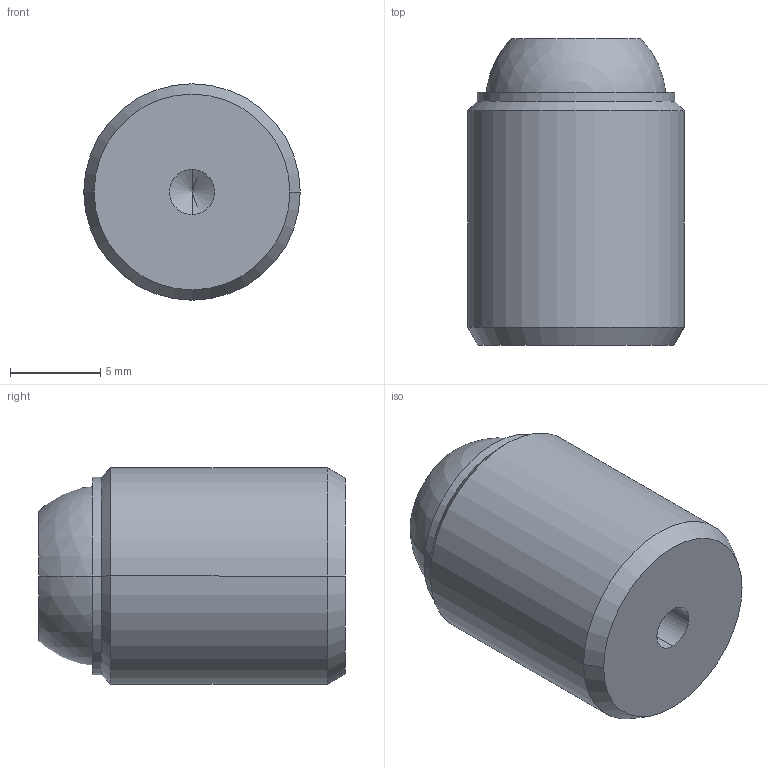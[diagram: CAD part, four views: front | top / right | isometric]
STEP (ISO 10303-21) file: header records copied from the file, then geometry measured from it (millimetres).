
FILE_DESCRIPTION (( 'STEP AP214' ), '1' );
FILE_NAME ('709.2-12-RR.step', '2023-01-26T12:37:45', ( '' ), ( '' ), 'SwSTEP 2.0', 'SolidWorks 2022', '' );
FILE_SCHEMA (( 'AUTOMOTIVE_DESIGN' ));
Length unit declared in the file: millimetre
Products named in the file (3): WB709.2_Kugel^WB709.2_10-R; WB709.2_Gehäuse^WB709.2_12-RH; 709.2-12-RR
Assembly tree (2 placements, depth 2):
  709.2-12-RR
    WB709.2_Gehäuse^WB709.2_12-RH
    WB709.2_Kugel^WB709.2_10-R
Bounding box: 12 x 17 x 12 mm (x, y, z)
Volume: 1708.5 mm3; surface area: 1157 mm2
Topology: 2 solids, 2 shells, 21 faces, 50 edges, 29 vertices
Faces by surface type: cylinder 6, cone 6, plane 5, sphere 4
Entity records: 654 total; most frequent: DIRECTION 116, CARTESIAN_POINT 87, ORIENTED_EDGE 76, AXIS2_PLACEMENT_3D 52, EDGE_CURVE 38, CIRCLE 26, EDGE_LOOP 23, VERTEX_POINT 23
